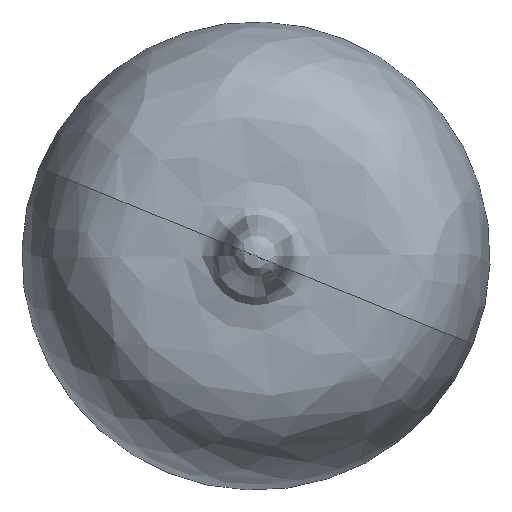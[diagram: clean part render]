
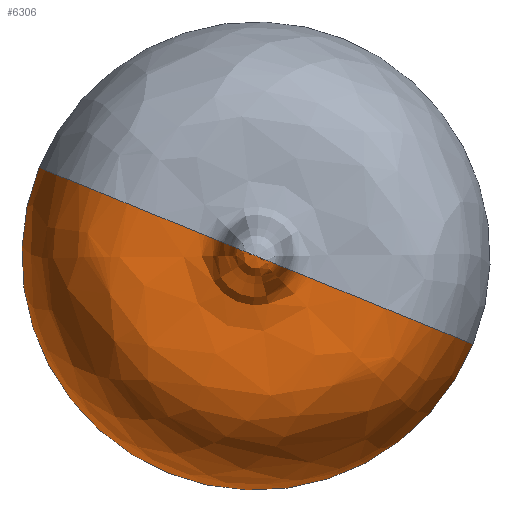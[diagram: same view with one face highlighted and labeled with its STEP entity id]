
A CAD part, front view. The second image highlights one B-rep face of the part: STEP entity #6306.
In plain terms, the highlighted free-form (B-spline) face has degree [3, 3] with [6, 4] control points.
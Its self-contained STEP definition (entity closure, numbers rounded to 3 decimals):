
#4398 = CARTESIAN_POINT ( 'NONE',  ( -11., 31., 0. ) ) ;
#4399 = CARTESIAN_POINT ( 'NONE',  ( 0., 31., -11. ) ) ;
#4403 = CARTESIAN_POINT ( 'NONE',  ( 11., 31., 0. ) ) ;
#4404 = CARTESIAN_POINT ( 'NONE',  ( 0., 47., 0. ) ) ;
#6306 = ADVANCED_FACE ( 'NONE', ( #14580 ), #20688, .T. ) ;
#6615 = EDGE_LOOP ( 'NONE', ( #12888, #12886, #12884, #12883 ) ) ;
#7434 = AXIS2_PLACEMENT_3D ( 'NONE', #16679, #16680, #16681 ) ;
#7436 = AXIS2_PLACEMENT_3D ( 'NONE', #16692, #16693, #16694 ) ;
#9153 = EDGE_CURVE ( 'NONE', #20410, #20411, #10078, .T. ) ;
#9154 = EDGE_CURVE ( 'NONE', #20410, #20416, #20807, .T. ) ;
#9156 = EDGE_CURVE ( 'NONE', #20411, #20415, #10080, .T. ) ;
#9157 = EDGE_CURVE ( 'NONE', #20415, #20416, #20763, .T. ) ;
#10078 = CIRCLE ( 'NONE', #7434, 11. ) ;
#10080 = CIRCLE ( 'NONE', #7436, 11. ) ;
#11261 = CARTESIAN_POINT ( 'NONE',  ( -11., 31., 0. ) ) ;
#11273 = CARTESIAN_POINT ( 'NONE',  ( -11., 31., -22. ) ) ;
#11274 = CARTESIAN_POINT ( 'NONE',  ( 11., 31., -22. ) ) ;
#11275 = CARTESIAN_POINT ( 'NONE',  ( 11., 31., 0. ) ) ;
#11276 = CARTESIAN_POINT ( 'NONE',  ( -11., 43.732, 0. ) ) ;
#11277 = CARTESIAN_POINT ( 'NONE',  ( -11., 43.732, -22. ) ) ;
#11278 = CARTESIAN_POINT ( 'NONE',  ( 11., 43.732, -22. ) ) ;
#11279 = CARTESIAN_POINT ( 'NONE',  ( 11., 43.732, 0. ) ) ;
#11280 = CARTESIAN_POINT ( 'NONE',  ( -3.691, 40.909, 0. ) ) ;
#11281 = CARTESIAN_POINT ( 'NONE',  ( -3.691, 40.909, -7.382 ) ) ;
#11282 = CARTESIAN_POINT ( 'NONE',  ( 3.691, 40.909, -7.382 ) ) ;
#11283 = CARTESIAN_POINT ( 'NONE',  ( 3.691, 40.909, 0. ) ) ;
#11284 = CARTESIAN_POINT ( 'NONE',  ( -0.84, 43.098, 0. ) ) ;
#11285 = CARTESIAN_POINT ( 'NONE',  ( -0.84, 43.098, -1.68 ) ) ;
#11286 = CARTESIAN_POINT ( 'NONE',  ( 0.84, 43.098, -1.68 ) ) ;
#11287 = CARTESIAN_POINT ( 'NONE',  ( 0.84, 43.098, 0. ) ) ;
#11288 = CARTESIAN_POINT ( 'NONE',  ( -1.869, 47., 0. ) ) ;
#11289 = CARTESIAN_POINT ( 'NONE',  ( -1.869, 47., -3.737 ) ) ;
#11290 = CARTESIAN_POINT ( 'NONE',  ( 1.869, 47., -3.737 ) ) ;
#11291 = CARTESIAN_POINT ( 'NONE',  ( 1.869, 47., 0. ) ) ;
#11292 = CARTESIAN_POINT ( 'NONE',  ( 0., 47., 0. ) ) ;
#11293 = CARTESIAN_POINT ( 'NONE',  ( 0., 47., 0. ) ) ;
#11294 = CARTESIAN_POINT ( 'NONE',  ( 0., 47., 0. ) ) ;
#11295 = CARTESIAN_POINT ( 'NONE',  ( 0., 47., 0. ) ) ;
#12883 = ORIENTED_EDGE ( 'NONE', *, *, #9156, .F. ) ;
#12884 = ORIENTED_EDGE ( 'NONE', *, *, #9157, .F. ) ;
#12886 = ORIENTED_EDGE ( 'NONE', *, *, #9154, .T. ) ;
#12888 = ORIENTED_EDGE ( 'NONE', *, *, #9153, .F. ) ;
#14580 = FACE_OUTER_BOUND ( 'NONE', #6615, .T. ) ;
#16677 = CARTESIAN_POINT ( 'NONE',  ( -3.691, 40.909, 0. ) ) ;
#16678 = CARTESIAN_POINT ( 'NONE',  ( -11., 43.732, 0. ) ) ;
#16679 = CARTESIAN_POINT ( 'NONE',  ( 0., 31., 0. ) ) ;
#16680 = DIRECTION ( 'NONE',  ( 0., -1., 0. ) ) ;
#16681 = DIRECTION ( 'NONE',  ( 0., 0., -1. ) ) ;
#16682 = CARTESIAN_POINT ( 'NONE',  ( -11., 31., 0. ) ) ;
#16683 = CARTESIAN_POINT ( 'NONE',  ( -0.84, 43.098, 0. ) ) ;
#16684 = CARTESIAN_POINT ( 'NONE',  ( -1.869, 47., 0. ) ) ;
#16685 = CARTESIAN_POINT ( 'NONE',  ( 0., 47., 0. ) ) ;
#16687 = CARTESIAN_POINT ( 'NONE',  ( 11., 31., 0. ) ) ;
#16691 = CARTESIAN_POINT ( 'NONE',  ( 11., 43.732, 0. ) ) ;
#16692 = CARTESIAN_POINT ( 'NONE',  ( 0., 31., 0. ) ) ;
#16693 = DIRECTION ( 'NONE',  ( 0., -1., 0. ) ) ;
#16694 = DIRECTION ( 'NONE',  ( 0., 0., -1. ) ) ;
#16696 = CARTESIAN_POINT ( 'NONE',  ( 3.691, 40.909, 0. ) ) ;
#16697 = CARTESIAN_POINT ( 'NONE',  ( 0.84, 43.098, 0. ) ) ;
#16698 = CARTESIAN_POINT ( 'NONE',  ( 1.869, 47., 0. ) ) ;
#16699 = CARTESIAN_POINT ( 'NONE',  ( 0., 47., 0. ) ) ;
#20410 = VERTEX_POINT ( 'NONE', #4398 ) ;
#20411 = VERTEX_POINT ( 'NONE', #4399 ) ;
#20415 = VERTEX_POINT ( 'NONE', #4403 ) ;
#20416 = VERTEX_POINT ( 'NONE', #4404 ) ;
#20688 =( BOUNDED_SURFACE ( )  B_SPLINE_SURFACE ( 3, 3, ( 
 ( #11261, #11273, #11274, #11275 ),
 ( #11276, #11277, #11278, #11279 ),
 ( #11280, #11281, #11282, #11283 ),
 ( #11284, #11285, #11286, #11287 ),
 ( #11288, #11289, #11290, #11291 ),
 ( #11292, #11293, #11294, #11295 ) ),
 .UNSPECIFIED., .F., .F., .F. ) 
 B_SPLINE_SURFACE_WITH_KNOTS ( ( 4, 1, 1, 4 ),
 ( 4, 4 ),
 ( 0., 0.443, 0.543, 1. ),
 ( 0., 1. ),
 .UNSPECIFIED. ) 
 GEOMETRIC_REPRESENTATION_ITEM ( )  RATIONAL_B_SPLINE_SURFACE ( (
 ( 1., 0.333, 0.333, 1.),
 ( 1., 0.333, 0.333, 1.),
 ( 1., 0.333, 0.333, 1.),
 ( 1., 0.333, 0.333, 1.),
 ( 1., 0.333, 0.333, 1.),
 ( 1., 0.333, 0.333, 1.) ) ) 
 REPRESENTATION_ITEM ( '' )  SURFACE ( )  );
#20763 = B_SPLINE_CURVE_WITH_KNOTS ( 'NONE', 3,
 ( #16687, #16691, #16696, #16697, #16698, #16699 ),
 .UNSPECIFIED., .F., .F.,
 ( 4, 1, 1, 4 ),
 ( 0., 0.443, 0.543, 1. ),
 .UNSPECIFIED. ) ;
#20807 = B_SPLINE_CURVE_WITH_KNOTS ( 'NONE', 3,
 ( #16682, #16678, #16677, #16683, #16684, #16685 ),
 .UNSPECIFIED., .F., .F.,
 ( 4, 1, 1, 4 ),
 ( 0., 0.443, 0.543, 1. ),
 .UNSPECIFIED. ) ;
